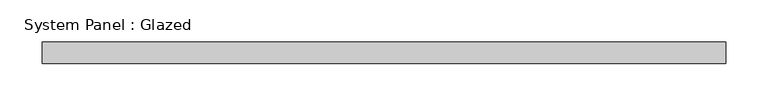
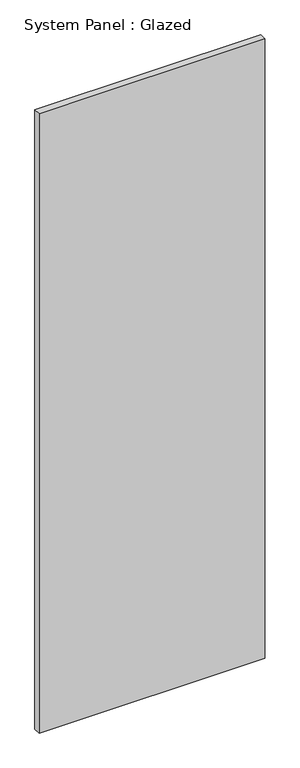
"""IFC4 building model written with IfcOpenShell, lengths in millimetres: plate geometry, System Panel : Glazed."""

from ifc_helpers import new_model, si_unit, origin, origin_with_axes, place, context, project, spatial, polyline, outline, extrude, source, transform, mapped, element, save


def system_panel_glazed_c8a6c6c5(model_context):
    return source(origin(), model_context, "Body", "SweptSolid", [
        extrude(outline(polyline([(403.621875, 19.05), (-403.621875, 19.05), (-403.621875, 44.45), (403.621875, 44.45), (403.621875, 19.05)])), origin_with_axes(), (0.0, 0.0, 1.0), 2343.15),
    ])


if __name__ == "__main__":
    model = new_model("IFC4")
    model_context = context("Model", 3, world=origin())
    ifc_project = project(units=[si_unit("LENGTHUNIT", "METRE", prefix="MILLI")], contexts=[model_context])
    site = spatial("IfcSite", under=ifc_project)
    building = spatial("IfcBuilding", under=site)
    placement = place(None, origin())
    system_panel_glazed_shape = system_panel_glazed_c8a6c6c5(model_context)
    element("IfcPlate", 1, ObjectType="System Panel : Glazed", at=placement, inside=building, context=model_context, shape_type="MappedRepresentation", body=[
        mapped(system_panel_glazed_shape, transform((0.0, 0.0, 0.0), x_axis=(1.0, 0.0, 0.0), y_axis=(0.0, 1.0, 0.0), z_axis=(0.0, 0.0, 1.0))),
    ])
    save(model, "model.ifc")
